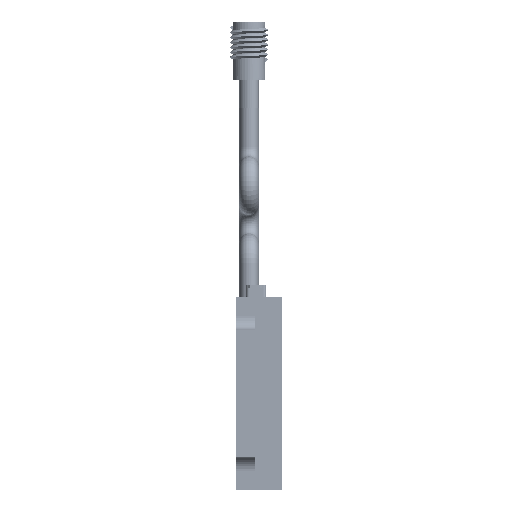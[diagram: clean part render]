
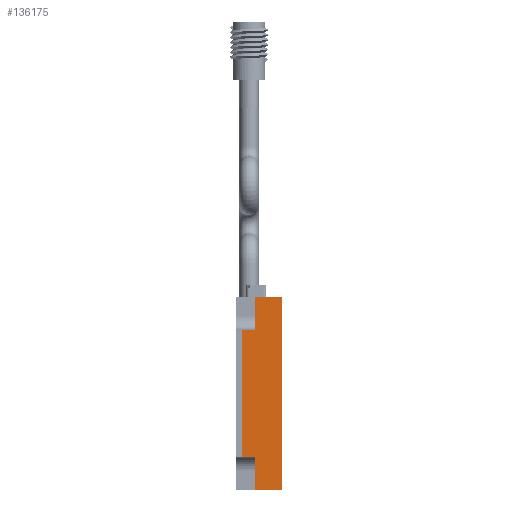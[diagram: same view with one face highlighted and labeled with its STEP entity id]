
A CAD part, left-side view. The second image highlights one B-rep face of the part: STEP entity #136175.
In plain terms, the highlighted planar face has unit normal (-1, 0, 0).
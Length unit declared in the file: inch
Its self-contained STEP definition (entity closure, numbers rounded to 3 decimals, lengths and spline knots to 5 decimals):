
#9193 = EDGE_LOOP ( 'NONE', ( #140457, #140458, #140461, #140463, #140464, #140466, #140468, #140470 ) ) ;
#26455 = CARTESIAN_POINT ( 'NONE',  ( -1.74203, -0.24805, 0.63317 ) ) ;
#26511 = CARTESIAN_POINT ( 'NONE',  ( -1.74203, -0.16805, -0.18383 ) ) ;
#26758 = CARTESIAN_POINT ( 'NONE',  ( -1.74203, -0.42805, 0.84967 ) ) ;
#26808 = CARTESIAN_POINT ( 'NONE',  ( -1.74203, -0.24805, -0.40033 ) ) ;
#26962 = CARTESIAN_POINT ( 'NONE',  ( -1.74203, -0.42805, -0.40033 ) ) ;
#27148 = CARTESIAN_POINT ( 'NONE',  ( -1.74203, -0.24805, -0.18383 ) ) ;
#27218 = CARTESIAN_POINT ( 'NONE',  ( -1.74203, -0.16805, 0.63317 ) ) ;
#27233 = CARTESIAN_POINT ( 'NONE',  ( -1.74203, -0.24805, 0.84967 ) ) ;
#70614 = VERTEX_POINT ( 'NONE', #26455 ) ;
#70666 = VERTEX_POINT ( 'NONE', #26511 ) ;
#70884 = VERTEX_POINT ( 'NONE', #26758 ) ;
#70938 = VERTEX_POINT ( 'NONE', #26808 ) ;
#71104 = VERTEX_POINT ( 'NONE', #26962 ) ;
#71304 = VERTEX_POINT ( 'NONE', #27148 ) ;
#71382 = VERTEX_POINT ( 'NONE', #27218 ) ;
#71398 = VERTEX_POINT ( 'NONE', #27233 ) ;
#111253 = FACE_OUTER_BOUND ( 'NONE', #9193, .T. ) ;
#123942 = CARTESIAN_POINT ( 'NONE',  ( -1.74203, -0.16805, -0.40033 ) ) ;
#123947 = PLANE ( 'NONE',  #125000 ) ;
#123952 = DIRECTION ( 'NONE',  ( 1., 0., 0. ) ) ;
#123954 = DIRECTION ( 'NONE',  ( 0., 0., -1. ) ) ;
#125000 = AXIS2_PLACEMENT_3D ( 'NONE', #123942, #123952, #123954 ) ;
#136175 = ADVANCED_FACE ( 'NONE', ( #111253 ), #123947, .F. ) ;
#140457 = ORIENTED_EDGE ( 'NONE', *, *, #142326, .F. ) ;
#140458 = ORIENTED_EDGE ( 'NONE', *, *, #142412, .F. ) ;
#140461 = ORIENTED_EDGE ( 'NONE', *, *, #142414, .F. ) ;
#140463 = ORIENTED_EDGE ( 'NONE', *, *, #142416, .T. ) ;
#140464 = ORIENTED_EDGE ( 'NONE', *, *, #142418, .T. ) ;
#140466 = ORIENTED_EDGE ( 'NONE', *, *, #142420, .F. ) ;
#140468 = ORIENTED_EDGE ( 'NONE', *, *, #142422, .F. ) ;
#140470 = ORIENTED_EDGE ( 'NONE', *, *, #142424, .T. ) ;
#142326 = EDGE_CURVE ( 'NONE', #70666, #71382, #145703, .T. ) ;
#142412 = EDGE_CURVE ( 'NONE', #71304, #70666, #145819, .T. ) ;
#142414 = EDGE_CURVE ( 'NONE', #70938, #71304, #145823, .T. ) ;
#142416 = EDGE_CURVE ( 'NONE', #70938, #71104, #145821, .T. ) ;
#142418 = EDGE_CURVE ( 'NONE', #71104, #70884, #145826, .T. ) ;
#142420 = EDGE_CURVE ( 'NONE', #71398, #70884, #145834, .T. ) ;
#142422 = EDGE_CURVE ( 'NONE', #70614, #71398, #145830, .T. ) ;
#142424 = EDGE_CURVE ( 'NONE', #70614, #71382, #145838, .T. ) ;
#145703 = LINE ( 'NONE', #148521, #145710 ) ;
#145710 = VECTOR ( 'NONE', #148536, 39.37008 ) ;
#145819 = LINE ( 'NONE', #148909, #145825 ) ;
#145821 = LINE ( 'NONE', #148906, #145832 ) ;
#145823 = LINE ( 'NONE', #148919, #145828 ) ;
#145825 = VECTOR ( 'NONE', #148824, 39.37008 ) ;
#145826 = LINE ( 'NONE', #148826, #145836 ) ;
#145828 = VECTOR ( 'NONE', #148924, 39.37008 ) ;
#145830 = LINE ( 'NONE', #148921, #145843 ) ;
#145832 = VECTOR ( 'NONE', #148927, 39.37008 ) ;
#145834 = LINE ( 'NONE', #148938, #145840 ) ;
#145836 = VECTOR ( 'NONE', #148933, 39.37008 ) ;
#145838 = LINE ( 'NONE', #148930, #145847 ) ;
#145840 = VECTOR ( 'NONE', #148943, 39.37008 ) ;
#145843 = VECTOR ( 'NONE', #152032, 39.37008 ) ;
#145847 = VECTOR ( 'NONE', #152033, 39.37008 ) ;
#148521 = CARTESIAN_POINT ( 'NONE',  ( -1.74203, -0.16805, -0.40033 ) ) ;
#148536 = DIRECTION ( 'NONE',  ( 0., 0., 1. ) ) ;
#148824 = DIRECTION ( 'NONE',  ( 0., 1., 0. ) ) ;
#148826 = CARTESIAN_POINT ( 'NONE',  ( -1.74203, -0.42805, -0.40033 ) ) ;
#148906 = CARTESIAN_POINT ( 'NONE',  ( -1.74203, -0.16805, -0.40033 ) ) ;
#148909 = CARTESIAN_POINT ( 'NONE',  ( -1.74203, -0.24805, -0.18383 ) ) ;
#148919 = CARTESIAN_POINT ( 'NONE',  ( -1.74203, -0.24805, -0.18383 ) ) ;
#148921 = CARTESIAN_POINT ( 'NONE',  ( -1.74203, -0.24805, 0.63317 ) ) ;
#148924 = DIRECTION ( 'NONE',  ( 0., 0., 1. ) ) ;
#148927 = DIRECTION ( 'NONE',  ( 0., -1., 0. ) ) ;
#148930 = CARTESIAN_POINT ( 'NONE',  ( -1.74203, -0.24805, 0.63317 ) ) ;
#148933 = DIRECTION ( 'NONE',  ( 0., 0., 1. ) ) ;
#148938 = CARTESIAN_POINT ( 'NONE',  ( -1.74203, -0.16805, 0.84967 ) ) ;
#148943 = DIRECTION ( 'NONE',  ( 0., -1., 0. ) ) ;
#152032 = DIRECTION ( 'NONE',  ( 0., 0., 1. ) ) ;
#152033 = DIRECTION ( 'NONE',  ( 0., 1., 0. ) ) ;
